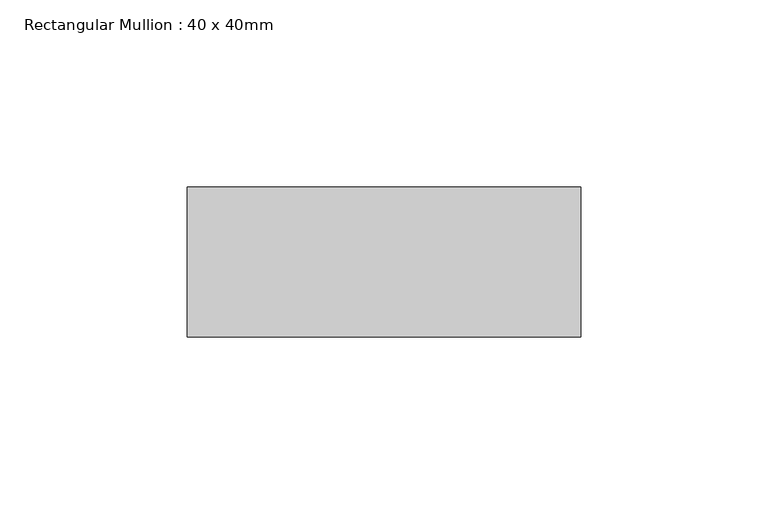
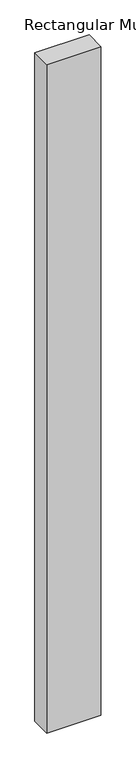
"""IFC4 building model written with IfcOpenShell, lengths in millimetres: member geometry, Rectangular Mullion : 40 x 40mm."""

from ifc_helpers import new_model, si_unit, frame, origin, place, context, project, spatial, polyline, outline, extrude, source, transform, mapped, element, save


def rectangular_mullion_40_x_40mm_4fb0bfb6(model_context):
    return source(origin(), model_context, "Body", "SweptSolid", [
        extrude(outline(polyline([(80.0, -20.0), (80.0, -60.0), (-25.0, -60.0), (-25.0, -20.0), (80.0, -20.0)])), frame((0.0, 0.0, -1370.0), z_axis=(0.0, 0.0, 1.0), x_axis=(1.0, 0.0, 0.0)), (0.0, 0.0, 1.0), 1370.0),
    ])


if __name__ == "__main__":
    model = new_model("IFC4")
    model_context = context("Model", 3, world=origin())
    ifc_project = project(units=[si_unit("LENGTHUNIT", "METRE", prefix="MILLI")], contexts=[model_context])
    site = spatial("IfcSite", under=ifc_project)
    building = spatial("IfcBuilding", under=site)
    placement = place(None, origin())
    rectangular_mullion_40_x_40mm_shape = rectangular_mullion_40_x_40mm_4fb0bfb6(model_context)
    element("IfcMember", 1, ObjectType="Rectangular Mullion : 40 x 40mm", at=placement, inside=building, context=model_context, shape_type="MappedRepresentation", body=[
        mapped(rectangular_mullion_40_x_40mm_shape, transform((0.0, 0.0, 0.0), x_axis=(1.0, 0.0, 0.0), y_axis=(0.0, 1.0, 0.0), z_axis=(0.0, 0.0, 1.0))),
    ])
    save(model, "model.ifc")
